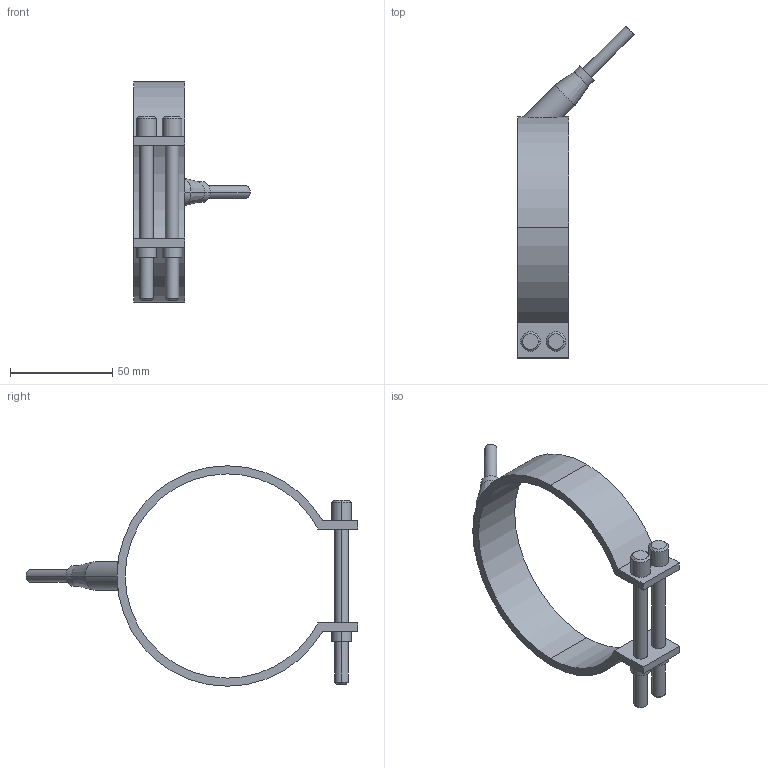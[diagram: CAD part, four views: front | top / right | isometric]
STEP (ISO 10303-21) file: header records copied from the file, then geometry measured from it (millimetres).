
FILE_DESCRIPTION(('CATIA V5 STEP Exchange'),'2;1');
FILE_NAME('C:\Users\Utente\Desktop\IO LAVORO\3D X SITO CF\X SITO\PLASTICA\RF1\29100025.stp','2021-03-29T13:21:55+00:00',('none'),('none'),'CATIA Version 5 Release 20 GA (IN-10)','CATIA V5 STEP AP203','none');
FILE_SCHEMA(('CONFIG_CONTROL_DESIGN'));
Length unit declared in the file: millimetre
Products named in the file (1): 29100025
Bounding box: 57.05 x 162.55 x 108 mm (x, y, z)
Volume: 42689.4 mm3; surface area: 23413.6 mm2
Topology: 1 solids, 1 shells, 54 faces, 121 edges, 77 vertices
Faces by surface type: cylinder 28, plane 16, cone 10
Entity records: 1686 total; most frequent: CARTESIAN_POINT 458, ORIENTED_EDGE 242, DIRECTION 216, EDGE_CURVE 121, AXIS2_PLACEMENT_3D 109, VERTEX_POINT 77, EDGE_LOOP 66, VECTOR 56
